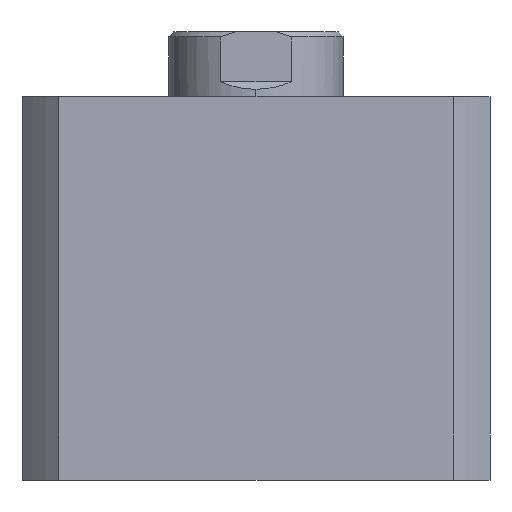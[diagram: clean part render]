
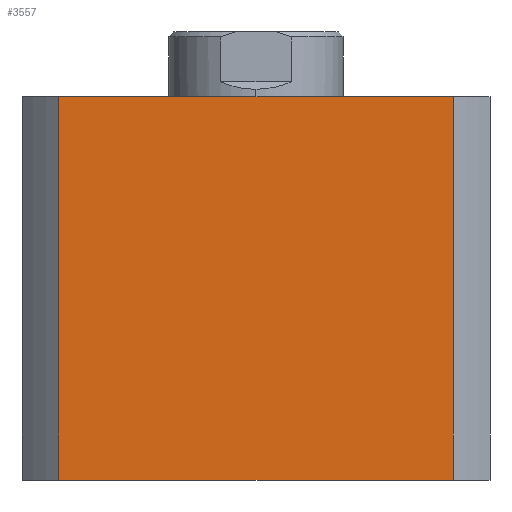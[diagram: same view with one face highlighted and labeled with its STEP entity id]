
A CAD part, left-side view. The second image highlights one B-rep face of the part: STEP entity #3557.
In plain terms, the highlighted planar face has unit normal (-1, 0, 0).
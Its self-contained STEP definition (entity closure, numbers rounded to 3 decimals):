
#728 = DIRECTION ( 'NONE',  ( 0., 0., -1. ) ) ;
#735 = CARTESIAN_POINT ( 'NONE',  ( -47., 39.664, 77. ) ) ;
#737 = CARTESIAN_POINT ( 'NONE',  ( -47., 0., 0. ) ) ;
#742 = DIRECTION ( 'NONE',  ( 0., -1., 0. ) ) ;
#743 = CARTESIAN_POINT ( 'NONE',  ( -47., -39.664, 77. ) ) ;
#745 = DIRECTION ( 'NONE',  ( 0., 0., -1. ) ) ;
#958 = ORIENTED_EDGE ( 'NONE', *, *, #3850, .T. ) ;
#973 = ORIENTED_EDGE ( 'NONE', *, *, #3852, .F. ) ;
#974 = ORIENTED_EDGE ( 'NONE', *, *, #3817, .F. ) ;
#975 = ORIENTED_EDGE ( 'NONE', *, *, #3851, .T. ) ;
#1268 = LINE ( 'NONE', #737, #1274 ) ;
#1270 = LINE ( 'NONE', #735, #1272 ) ;
#1272 = VECTOR ( 'NONE', #728, 1000. ) ;
#1273 = LINE ( 'NONE', #743, #1276 ) ;
#1274 = VECTOR ( 'NONE', #742, 1000. ) ;
#1276 = VECTOR ( 'NONE', #745, 1000. ) ;
#2090 = EDGE_LOOP ( 'NONE', ( #975, #973, #974, #958 ) ) ;
#2778 = CARTESIAN_POINT ( 'NONE',  ( -47., -39.664, 0. ) ) ;
#2780 = CARTESIAN_POINT ( 'NONE',  ( -47., 39.664, 0. ) ) ;
#3247 = VERTEX_POINT ( 'NONE', #2778 ) ;
#3249 = VERTEX_POINT ( 'NONE', #2780 ) ;
#3268 = VERTEX_POINT ( 'NONE', #4093 ) ;
#3278 = VERTEX_POINT ( 'NONE', #4102 ) ;
#3413 = DIRECTION ( 'NONE',  ( 0., -1., 0. ) ) ;
#3418 = CARTESIAN_POINT ( 'NONE',  ( -47., 0., 77. ) ) ;
#3557 = ADVANCED_FACE ( 'NONE', ( #4653 ), #4153, .F. ) ;
#3817 = EDGE_CURVE ( 'NONE', #3268, #3278, #4354, .T. ) ;
#3850 = EDGE_CURVE ( 'NONE', #3268, #3249, #1270, .T. ) ;
#3851 = EDGE_CURVE ( 'NONE', #3249, #3247, #1268, .T. ) ;
#3852 = EDGE_CURVE ( 'NONE', #3278, #3247, #1273, .T. ) ;
#4093 = CARTESIAN_POINT ( 'NONE',  ( -47., 39.664, 77. ) ) ;
#4102 = CARTESIAN_POINT ( 'NONE',  ( -47., -39.664, 77. ) ) ;
#4148 = CARTESIAN_POINT ( 'NONE',  ( -47., 0., 77. ) ) ;
#4153 = PLANE ( 'NONE',  #4931 ) ;
#4156 = DIRECTION ( 'NONE',  ( 1., 0., 0. ) ) ;
#4157 = DIRECTION ( 'NONE',  ( 0., 0., -1. ) ) ;
#4354 = LINE ( 'NONE', #3418, #4356 ) ;
#4356 = VECTOR ( 'NONE', #3413, 1000. ) ;
#4653 = FACE_OUTER_BOUND ( 'NONE', #2090, .T. ) ;
#4931 = AXIS2_PLACEMENT_3D ( 'NONE', #4148, #4156, #4157 ) ;
